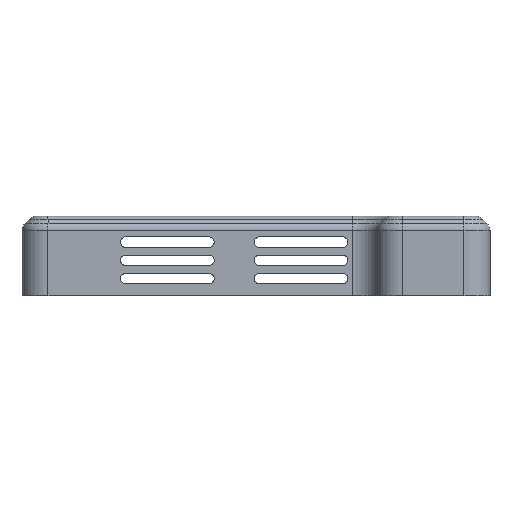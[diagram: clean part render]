
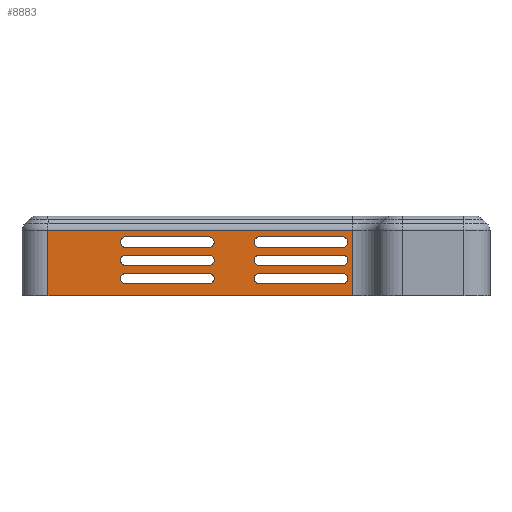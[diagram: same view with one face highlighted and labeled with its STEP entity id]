
A CAD part, left-side view. The second image highlights one B-rep face of the part: STEP entity #8883.
In plain terms, the highlighted planar face has unit normal (-1, 0, 0).
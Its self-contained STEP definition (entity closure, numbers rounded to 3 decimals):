
#325=DIRECTION('',(0.,-1.,0.));
#326=VECTOR('',#325,58.5);
#327=CARTESIAN_POINT('',(-52.5,43.5,6.66));
#328=LINE('',#327,#326);
#570=DIRECTION('',(0.,0.,1.));
#571=VECTOR('',#570,12.512);
#572=CARTESIAN_POINT('',(-52.5,43.5,6.66));
#573=LINE('',#572,#571);
#574=DIRECTION('',(0.,1.,0.));
#575=VECTOR('',#574,58.5);
#576=CARTESIAN_POINT('',(-52.5,-15.,19.172));
#577=LINE('',#576,#575);
#578=DIRECTION('',(0.,0.,-1.));
#579=VECTOR('',#578,12.512);
#580=CARTESIAN_POINT('',(-52.5,-15.,19.172));
#581=LINE('',#580,#579);
#582=CARTESIAN_POINT('',(-52.5,28.553,17.));
#583=DIRECTION('',(-1.,0.,0.));
#584=DIRECTION('',(0.,0.,1.));
#585=AXIS2_PLACEMENT_3D('',#582,#583,#584);
#587=DIRECTION('',(0.,1.,0.));
#588=VECTOR('',#587,16.);
#589=CARTESIAN_POINT('',(-52.5,12.553,16.));
#590=LINE('',#589,#588);
#591=CARTESIAN_POINT('',(-52.5,12.553,17.));
#592=DIRECTION('',(-1.,0.,0.));
#593=DIRECTION('',(0.,0.,-1.));
#594=AXIS2_PLACEMENT_3D('',#591,#592,#593);
#596=DIRECTION('',(0.,-1.,0.));
#597=VECTOR('',#596,16.);
#598=CARTESIAN_POINT('',(-52.5,28.553,18.));
#599=LINE('',#598,#597);
#600=CARTESIAN_POINT('',(-52.5,2.853,10.));
#601=DIRECTION('',(-1.,0.,0.));
#602=DIRECTION('',(0.,0.,1.));
#603=AXIS2_PLACEMENT_3D('',#600,#601,#602);
#605=DIRECTION('',(0.,1.,0.));
#606=VECTOR('',#605,16.);
#607=CARTESIAN_POINT('',(-52.5,-13.147,9.));
#608=LINE('',#607,#606);
#609=CARTESIAN_POINT('',(-52.5,-13.147,10.));
#610=DIRECTION('',(-1.,0.,0.));
#611=DIRECTION('',(0.,0.,-1.));
#612=AXIS2_PLACEMENT_3D('',#609,#610,#611);
#614=DIRECTION('',(0.,1.,0.));
#615=VECTOR('',#614,16.);
#616=CARTESIAN_POINT('',(-52.5,-13.147,11.));
#617=LINE('',#616,#615);
#618=DIRECTION('',(0.,1.,0.));
#619=VECTOR('',#618,16.);
#620=CARTESIAN_POINT('',(-52.5,-13.147,12.5));
#621=LINE('',#620,#619);
#622=CARTESIAN_POINT('',(-52.5,-13.147,13.5));
#623=DIRECTION('',(-1.,0.,0.));
#624=DIRECTION('',(0.,0.,-1.));
#625=AXIS2_PLACEMENT_3D('',#622,#623,#624);
#627=DIRECTION('',(0.,1.,0.));
#628=VECTOR('',#627,16.);
#629=CARTESIAN_POINT('',(-52.5,-13.147,14.5));
#630=LINE('',#629,#628);
#631=CARTESIAN_POINT('',(-52.5,2.853,13.5));
#632=DIRECTION('',(-1.,0.,0.));
#633=DIRECTION('',(0.,0.,1.));
#634=AXIS2_PLACEMENT_3D('',#631,#632,#633);
#636=DIRECTION('',(0.,-1.,0.));
#637=VECTOR('',#636,16.);
#638=CARTESIAN_POINT('',(-52.5,28.553,14.5));
#639=LINE('',#638,#637);
#640=CARTESIAN_POINT('',(-52.5,28.553,13.5));
#641=DIRECTION('',(-1.,0.,0.));
#642=DIRECTION('',(0.,0.,1.));
#643=AXIS2_PLACEMENT_3D('',#640,#641,#642);
#645=DIRECTION('',(0.,1.,0.));
#646=VECTOR('',#645,16.);
#647=CARTESIAN_POINT('',(-52.5,12.553,12.5));
#648=LINE('',#647,#646);
#649=CARTESIAN_POINT('',(-52.5,12.553,13.5));
#650=DIRECTION('',(-1.,0.,0.));
#651=DIRECTION('',(0.,0.,-1.));
#652=AXIS2_PLACEMENT_3D('',#649,#650,#651);
#654=CARTESIAN_POINT('',(-52.5,2.853,17.));
#655=DIRECTION('',(-1.,0.,0.));
#656=DIRECTION('',(0.,0.,1.));
#657=AXIS2_PLACEMENT_3D('',#654,#655,#656);
#659=DIRECTION('',(0.,1.,0.));
#660=VECTOR('',#659,16.);
#661=CARTESIAN_POINT('',(-52.5,-13.147,16.));
#662=LINE('',#661,#660);
#663=CARTESIAN_POINT('',(-52.5,-13.147,17.));
#664=DIRECTION('',(-1.,0.,0.));
#665=DIRECTION('',(0.,0.,-1.));
#666=AXIS2_PLACEMENT_3D('',#663,#664,#665);
#668=DIRECTION('',(0.,1.,0.));
#669=VECTOR('',#668,16.);
#670=CARTESIAN_POINT('',(-52.5,-13.147,18.));
#671=LINE('',#670,#669);
#672=DIRECTION('',(0.,1.,0.));
#673=VECTOR('',#672,16.);
#674=CARTESIAN_POINT('',(-52.5,12.553,9.));
#675=LINE('',#674,#673);
#676=CARTESIAN_POINT('',(-52.5,12.553,10.));
#677=DIRECTION('',(-1.,0.,0.));
#678=DIRECTION('',(0.,0.,-1.));
#679=AXIS2_PLACEMENT_3D('',#676,#677,#678);
#681=DIRECTION('',(0.,-1.,0.));
#682=VECTOR('',#681,16.);
#683=CARTESIAN_POINT('',(-52.5,28.553,11.));
#684=LINE('',#683,#682);
#685=CARTESIAN_POINT('',(-52.5,28.553,10.));
#686=DIRECTION('',(-1.,0.,0.));
#687=DIRECTION('',(0.,0.,1.));
#688=AXIS2_PLACEMENT_3D('',#685,#686,#687);
#6986=CARTESIAN_POINT('',(-52.5,-13.147,11.));
#6988=VERTEX_POINT('',#6986);
#6994=CARTESIAN_POINT('',(-52.5,-13.147,14.5));
#6996=VERTEX_POINT('',#6994);
#7002=CARTESIAN_POINT('',(-52.5,-13.147,18.));
#7004=VERTEX_POINT('',#7002);
#7010=CARTESIAN_POINT('',(-52.5,2.853,9.));
#7012=VERTEX_POINT('',#7010);
#7018=CARTESIAN_POINT('',(-52.5,2.853,16.));
#7020=VERTEX_POINT('',#7018);
#7026=CARTESIAN_POINT('',(-52.5,2.853,12.5));
#7028=VERTEX_POINT('',#7026);
#7062=CARTESIAN_POINT('',(-52.5,28.553,16.));
#7064=VERTEX_POINT('',#7062);
#7070=CARTESIAN_POINT('',(-52.5,28.553,12.5));
#7072=VERTEX_POINT('',#7070);
#7078=CARTESIAN_POINT('',(-52.5,28.553,9.));
#7080=VERTEX_POINT('',#7078);
#7082=CARTESIAN_POINT('',(-52.5,12.553,12.5));
#7084=VERTEX_POINT('',#7082);
#7090=CARTESIAN_POINT('',(-52.5,12.553,18.));
#7092=VERTEX_POINT('',#7090);
#7098=CARTESIAN_POINT('',(-52.5,12.553,9.));
#7100=VERTEX_POINT('',#7098);
#7574=CARTESIAN_POINT('',(-52.5,28.553,14.5));
#7576=VERTEX_POINT('',#7574);
#7578=CARTESIAN_POINT('',(-52.5,12.553,14.5));
#7580=VERTEX_POINT('',#7578);
#7582=CARTESIAN_POINT('',(-52.5,28.553,18.));
#7584=VERTEX_POINT('',#7582);
#7586=CARTESIAN_POINT('',(-52.5,12.553,16.));
#7588=VERTEX_POINT('',#7586);
#7590=CARTESIAN_POINT('',(-52.5,12.553,11.));
#7592=VERTEX_POINT('',#7590);
#7594=CARTESIAN_POINT('',(-52.5,28.553,11.));
#7596=VERTEX_POINT('',#7594);
#7598=CARTESIAN_POINT('',(-52.5,-13.147,12.5));
#7600=VERTEX_POINT('',#7598);
#7602=CARTESIAN_POINT('',(-52.5,2.853,18.));
#7604=VERTEX_POINT('',#7602);
#7606=CARTESIAN_POINT('',(-52.5,-13.147,16.));
#7608=VERTEX_POINT('',#7606);
#7610=CARTESIAN_POINT('',(-52.5,2.853,11.));
#7612=VERTEX_POINT('',#7610);
#7614=CARTESIAN_POINT('',(-52.5,-13.147,9.));
#7616=VERTEX_POINT('',#7614);
#7618=CARTESIAN_POINT('',(-52.5,2.853,14.5));
#7620=VERTEX_POINT('',#7618);
#8395=CARTESIAN_POINT('',(-52.5,43.5,6.66));
#8396=CARTESIAN_POINT('',(-52.5,-15.,6.66));
#8397=VERTEX_POINT('',#8395);
#8398=VERTEX_POINT('',#8396);
#8411=CARTESIAN_POINT('',(-52.5,43.5,19.172));
#8412=VERTEX_POINT('',#8411);
#8415=CARTESIAN_POINT('',(-52.5,-15.,19.172));
#8416=VERTEX_POINT('',#8415);
#8810=CARTESIAN_POINT('',(-52.5,0.,-12.));
#8811=DIRECTION('',(-1.,0.,0.));
#8812=DIRECTION('',(0.,-1.,0.));
#8813=AXIS2_PLACEMENT_3D('',#8810,#8811,#8812);
#8814=PLANE('',#8813);
#8815=ORIENTED_EDGE('',*,*,#8641,.F.);
#8817=ORIENTED_EDGE('',*,*,#8816,.T.);
#8819=ORIENTED_EDGE('',*,*,#8818,.F.);
#8820=ORIENTED_EDGE('',*,*,#8802,.T.);
#8821=EDGE_LOOP('',(#8815,#8817,#8819,#8820));
#8822=FACE_OUTER_BOUND('',#8821,.F.);
#8824=ORIENTED_EDGE('',*,*,#8823,.T.);
#8826=ORIENTED_EDGE('',*,*,#8825,.F.);
#8828=ORIENTED_EDGE('',*,*,#8827,.T.);
#8830=ORIENTED_EDGE('',*,*,#8829,.F.);
#8831=EDGE_LOOP('',(#8824,#8826,#8828,#8830));
#8832=FACE_BOUND('',#8831,.F.);
#8834=ORIENTED_EDGE('',*,*,#8833,.T.);
#8836=ORIENTED_EDGE('',*,*,#8835,.F.);
#8838=ORIENTED_EDGE('',*,*,#8837,.T.);
#8840=ORIENTED_EDGE('',*,*,#8839,.T.);
#8841=EDGE_LOOP('',(#8834,#8836,#8838,#8840));
#8842=FACE_BOUND('',#8841,.F.);
#8844=ORIENTED_EDGE('',*,*,#8843,.F.);
#8846=ORIENTED_EDGE('',*,*,#8845,.T.);
#8848=ORIENTED_EDGE('',*,*,#8847,.T.);
#8850=ORIENTED_EDGE('',*,*,#8849,.T.);
#8851=EDGE_LOOP('',(#8844,#8846,#8848,#8850));
#8852=FACE_BOUND('',#8851,.F.);
#8854=ORIENTED_EDGE('',*,*,#8853,.F.);
#8856=ORIENTED_EDGE('',*,*,#8855,.T.);
#8858=ORIENTED_EDGE('',*,*,#8857,.F.);
#8860=ORIENTED_EDGE('',*,*,#8859,.T.);
#8861=EDGE_LOOP('',(#8854,#8856,#8858,#8860));
#8862=FACE_BOUND('',#8861,.F.);
#8864=ORIENTED_EDGE('',*,*,#8863,.T.);
#8866=ORIENTED_EDGE('',*,*,#8865,.F.);
#8868=ORIENTED_EDGE('',*,*,#8867,.T.);
#8870=ORIENTED_EDGE('',*,*,#8869,.T.);
#8871=EDGE_LOOP('',(#8864,#8866,#8868,#8870));
#8872=FACE_BOUND('',#8871,.F.);
#8874=ORIENTED_EDGE('',*,*,#8873,.F.);
#8876=ORIENTED_EDGE('',*,*,#8875,.T.);
#8878=ORIENTED_EDGE('',*,*,#8877,.F.);
#8880=ORIENTED_EDGE('',*,*,#8879,.T.);
#8881=EDGE_LOOP('',(#8874,#8876,#8878,#8880));
#8882=FACE_BOUND('',#8881,.F.);
#586=CIRCLE('',#585,1.);
#595=CIRCLE('',#594,1.);
#604=CIRCLE('',#603,1.);
#613=CIRCLE('',#612,1.);
#626=CIRCLE('',#625,1.);
#635=CIRCLE('',#634,1.);
#644=CIRCLE('',#643,1.);
#653=CIRCLE('',#652,1.);
#658=CIRCLE('',#657,1.);
#667=CIRCLE('',#666,1.);
#680=CIRCLE('',#679,1.);
#689=CIRCLE('',#688,1.);
#8641=EDGE_CURVE('',#8397,#8398,#328,.T.);
#8802=EDGE_CURVE('',#8416,#8398,#581,.T.);
#8816=EDGE_CURVE('',#8397,#8412,#573,.T.);
#8818=EDGE_CURVE('',#8416,#8412,#577,.T.);
#8823=EDGE_CURVE('',#7584,#7064,#586,.T.);
#8825=EDGE_CURVE('',#7588,#7064,#590,.T.);
#8827=EDGE_CURVE('',#7588,#7092,#595,.T.);
#8829=EDGE_CURVE('',#7584,#7092,#599,.T.);
#8833=EDGE_CURVE('',#7612,#7012,#604,.T.);
#8835=EDGE_CURVE('',#7616,#7012,#608,.T.);
#8837=EDGE_CURVE('',#7616,#6988,#613,.T.);
#8839=EDGE_CURVE('',#6988,#7612,#617,.T.);
#8843=EDGE_CURVE('',#7600,#7028,#621,.T.);
#8845=EDGE_CURVE('',#7600,#6996,#626,.T.);
#8847=EDGE_CURVE('',#6996,#7620,#630,.T.);
#8849=EDGE_CURVE('',#7620,#7028,#635,.T.);
#8853=EDGE_CURVE('',#7576,#7580,#639,.T.);
#8855=EDGE_CURVE('',#7576,#7072,#644,.T.);
#8857=EDGE_CURVE('',#7084,#7072,#648,.T.);
#8859=EDGE_CURVE('',#7084,#7580,#653,.T.);
#8863=EDGE_CURVE('',#7604,#7020,#658,.T.);
#8865=EDGE_CURVE('',#7608,#7020,#662,.T.);
#8867=EDGE_CURVE('',#7608,#7004,#667,.T.);
#8869=EDGE_CURVE('',#7004,#7604,#671,.T.);
#8873=EDGE_CURVE('',#7100,#7080,#675,.T.);
#8875=EDGE_CURVE('',#7100,#7592,#680,.T.);
#8877=EDGE_CURVE('',#7596,#7592,#684,.T.);
#8879=EDGE_CURVE('',#7596,#7080,#689,.T.);
#8883=ADVANCED_FACE('',(#8822,#8832,#8842,#8852,#8862,#8872,#8882),#8814,.T.);
